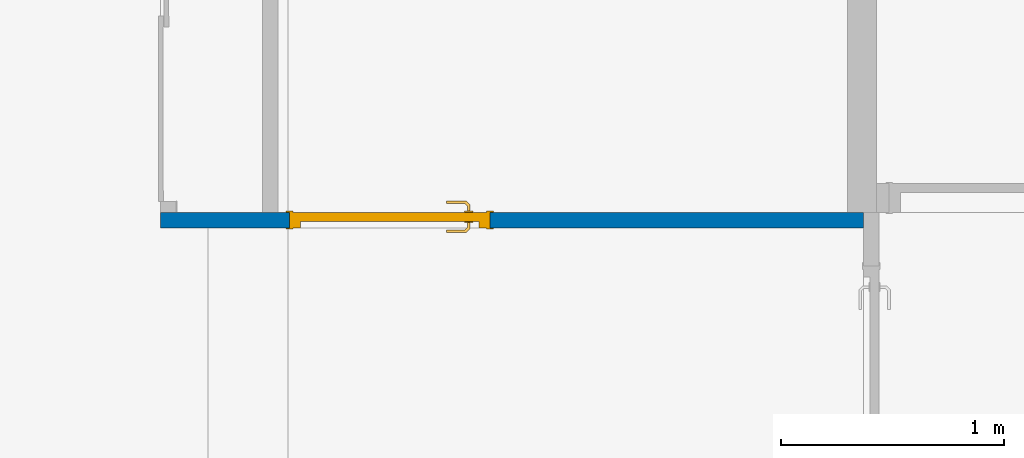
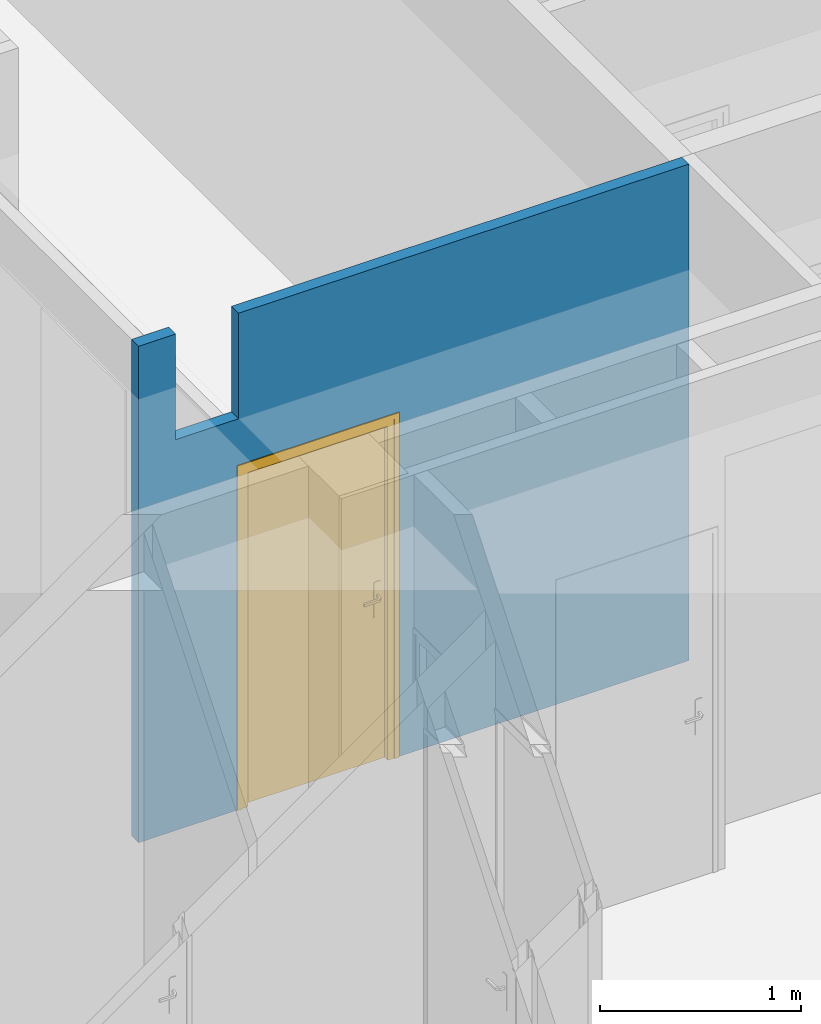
# One storey, part 61 of 97: 1 door, 1 wall, 1 opening.
"""IFC4 building model written with IfcOpenShell, lengths in metres."""

from ifc_helpers import new_model, entity, si_unit, converted_unit, derived_unit, direction, frame, origin, place, context, subcontext, project, spatial, indexed_curve, outline, extrude, polygons, source, transform, mapped, material, material_list, layer, layer_set, constituent, constituent_set, type_object, type_shapes, element, fill, save


model = new_model("IFC4")

# Units and contexts
model_context = context("Model", 3, precision=1e-05, world=origin(), true_north=direction((6.12303176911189e-17, 1.0)))
body_context = subcontext(model_context, "Body", "Model", "MODEL_VIEW")
ifc_project = project(units=[si_unit("LENGTHUNIT", "METRE"), si_unit("AREAUNIT", "SQUARE_METRE"), si_unit("VOLUMEUNIT", "CUBIC_METRE"), converted_unit("PLANEANGLEUNIT", "DEGREE", entity("IfcRatioMeasure", 0.0174532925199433), si_unit("PLANEANGLEUNIT", "RADIAN"), dimensions=[0, 0, 0, 0, 0, 0, 0]), si_unit("MASSUNIT", "GRAM", prefix="KILO"), derived_unit("MASSDENSITYUNIT", [(si_unit("MASSUNIT", "GRAM", prefix="KILO"), 1), (si_unit("LENGTHUNIT", "METRE"), -3)]), derived_unit("MOMENTOFINERTIAUNIT", [(si_unit("LENGTHUNIT", "METRE"), 4)]), si_unit("TIMEUNIT", "SECOND"), si_unit("FREQUENCYUNIT", "HERTZ"), si_unit("THERMODYNAMICTEMPERATUREUNIT", "DEGREE_CELSIUS"), derived_unit("THERMALTRANSMITTANCEUNIT", [(si_unit("MASSUNIT", "GRAM", prefix="KILO"), 1), (si_unit("THERMODYNAMICTEMPERATUREUNIT", "KELVIN"), -1), (si_unit("TIMEUNIT", "SECOND"), -3)]), derived_unit("VOLUMETRICFLOWRATEUNIT", [(si_unit("LENGTHUNIT", "METRE"), 3), (si_unit("TIMEUNIT", "SECOND"), -1)]), si_unit("ELECTRICCURRENTUNIT", "AMPERE"), si_unit("ELECTRICVOLTAGEUNIT", "VOLT"), si_unit("POWERUNIT", "WATT"), si_unit("FORCEUNIT", "NEWTON", prefix="KILO"), si_unit("ILLUMINANCEUNIT", "LUX"), si_unit("LUMINOUSFLUXUNIT", "LUMEN"), si_unit("LUMINOUSINTENSITYUNIT", "CANDELA"), derived_unit("USERDEFINED", [(si_unit("MASSUNIT", "GRAM", prefix="KILO"), -1), (si_unit("LENGTHUNIT", "METRE"), -2), (si_unit("TIMEUNIT", "SECOND"), 3), (si_unit("LUMINOUSFLUXUNIT", "LUMEN"), 1)]), derived_unit("LINEARVELOCITYUNIT", [(si_unit("LENGTHUNIT", "METRE"), 1), (si_unit("TIMEUNIT", "SECOND"), -1)]), si_unit("PRESSUREUNIT", "PASCAL"), derived_unit("USERDEFINED", [(si_unit("LENGTHUNIT", "METRE"), -2), (si_unit("MASSUNIT", "GRAM", prefix="KILO"), 1), (si_unit("TIMEUNIT", "SECOND"), -2)]), derived_unit("LINEARFORCEUNIT", [(si_unit("MASSUNIT", "GRAM", prefix="KILO"), 1), (si_unit("LENGTHUNIT", "METRE"), 1), (si_unit("TIMEUNIT", "SECOND"), -2), (si_unit("LENGTHUNIT", "METRE"), -1)]), derived_unit("PLANARFORCEUNIT", [(si_unit("MASSUNIT", "GRAM", prefix="KILO"), 1), (si_unit("LENGTHUNIT", "METRE"), 1), (si_unit("TIMEUNIT", "SECOND"), -2), (si_unit("LENGTHUNIT", "METRE"), -2)])], contexts=[model_context])

# Site, building, storey
site_placement = place(None, origin())
site = spatial("IfcSite", under=ifc_project, at=site_placement, Name="Default", CompositionType="ELEMENT")
building_placement = place(site_placement, origin())
building = spatial("IfcBuilding", under=site, at=building_placement, Name="HOTEL CONSULAIRE BOULOGNE SUR MER", CompositionType="ELEMENT")
storey_placement = place(building_placement, frame((0.0, 0.0, 3.62152697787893)))
storey = spatial("IfcBuildingStorey", under=building, at=storey_placement, Name="Niveau 1", CompositionType="ELEMENT", Elevation=3.62152697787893)

# Wall, opening, door
ifc_material_1 = material(Name="Mur par défaut", Category="Divers")
ifc_layer = layer(ifc_material_1, 0.07, Name="Mur par défaut", Category="Divers")
ifc_layer_set = layer_set([ifc_layer], Name="Mur de base:Générique - Int. 70 mm")
wall_type = type_object("IfcWallType", Name="Mur de base:Générique - Int. 70 mm", PredefinedType="NOTDEFINED", material=ifc_layer_set)
wall_placement = place(storey_placement, frame((-2.58913283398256, -22.5600276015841, 0.0), z_axis=(0.0, 0.0, 1.0), x_axis=(-1.0, 0.0, 0.0)))
wall = element("IfcWall", 1, at=wall_placement, inside=storey, type_object=wall_type, material=ifc_layer_set, Name="Mur de base:Générique - Int. 70 mm", ObjectType="Mur de base:Générique - Int. 70 mm", PredefinedType="NOTDEFINED", context=body_context, shape_type="Tessellation", body=[
    polygons([(1.46852136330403e-16, 0.0350000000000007, 3.01021454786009), (3.342632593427e-16, -0.0350000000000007, 3.01021454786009), (0.0713958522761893, -0.0350000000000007, 3.01021454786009), (2.58339585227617, -0.035000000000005, 3.01021454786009), (2.58339585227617, 0.0349999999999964, 3.01021454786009), (3.15639585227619, -0.0350000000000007, 0.0), (3.08639585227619, -0.0350000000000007, 0.0), (2.69839585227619, -0.0350000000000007, 0.0), (2.62839585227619, -0.0350000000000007, 0.0), (2.57739585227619, -0.035000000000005, 0.0), (2.57739585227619, 0.0350000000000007, 0.0), (3.15639585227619, 0.0350000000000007, 0.0), (2.57739585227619, -0.035000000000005, 2.075), (3.15639585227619, -0.0350000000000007, 3.01021454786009), (3.08639585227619, -0.0350000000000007, 3.01021454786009), (2.94339585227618, -0.035000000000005, 3.01021454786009), (2.94339585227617, -0.035000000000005, 2.37021454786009), (2.69839585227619, -0.035000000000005, 2.37021454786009), (2.62839585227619, -0.035000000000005, 2.37021454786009), (2.58339585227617, -0.035000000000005, 2.37021454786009), (3.342632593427e-16, -0.0350000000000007, 0.0), (0.0713958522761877, -0.0350000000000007, 0.0), (1.67739585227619, -0.0350000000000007, 0.0), (1.67739585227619, -0.0350000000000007, 2.075), (2.57739585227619, 0.0349999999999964, 2.075), (1.67739585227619, 0.0350000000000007, 2.075), (1.67739585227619, 0.0350000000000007, 0.0), (1.46852136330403e-16, 0.0350000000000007, 0.0), (2.58339585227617, 0.0349999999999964, 2.37021454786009), (2.94339585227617, 0.0349999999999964, 2.37021454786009), (2.94339585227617, 0.0349999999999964, 3.01021454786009), (3.15639585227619, 0.0350000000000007, 3.01021454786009)], [[[3, 4, 5, 1, 2]], [[15, 14, 32, 31, 16]], [[29, 20, 19, 18, 17, 30]], [[8, 9, 10, 11, 12, 6, 7]], [[26, 25, 13, 24]], [[22, 21, 28, 27, 23]], [[3, 2, 21, 22, 23, 24, 13, 10, 9, 8, 7, 6, 14, 15, 16, 17, 18, 19, 20, 4]], [[30, 31, 32, 12, 11, 25, 26, 27, 28, 1, 5, 29]], [[28, 21, 2, 1]], [[25, 11, 10, 13]], [[31, 30, 17, 16]], [[27, 26, 24, 23]], [[14, 6, 12, 32]], [[5, 4, 20, 29]]], closed=True),
])
opening_placement = place(wall_placement, frame((2.57739585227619, 0.0350000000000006, 0.0)))
opening = element("IfcOpeningElement", 2, at=opening_placement, cuts=wall, Name="Int. Simple:PP (0.83m x 2.04m):1", ObjectType="Opening", PredefinedType="OPENING", context=body_context, shape_type="SweptSolid", body=[
    extrude(outline(indexed_curve([(0.0, 5.41433564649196e-16), (2.075, 5.41433564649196e-16), (2.075, 0.9), (0.0, 0.9), (0.0, 5.41433564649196e-16)], self_intersect=False)), frame((0.0, 0.0, 0.0), z_axis=(0.0, -1.0, 0.0), x_axis=(0.0, 0.0, 1.0)), (0.0, 0.0, 1.0), 0.07),
])
ifc_material_2 = material(Name="Finition Peinture - Blanc satiné", Category="Peinture")
ifc_constituent_1 = constituent(ifc_material_2, Name="Finition Peinture - Blanc satiné", Category="Matériaux")
ifc_material_3 = material(Name="Bois - Panneau de porte", Category="Bois")
ifc_constituent_2 = constituent(ifc_material_3, Name="Bois - Panneau de porte", Category="Matériaux")
ifc_material_4 = material(Name="Bois - Cadre de porte", Category="Bois")
ifc_constituent_3 = constituent(ifc_material_4, Name="Bois - Cadre de porte", Category="Matériaux")
ifc_constituent_set = constituent_set(constituents=[ifc_constituent_1, ifc_constituent_2, ifc_constituent_3], Name="MaterialConstituentSet")
ifc_material_list = material_list([ifc_material_3, ifc_material_4, ifc_material_4, ifc_material_2])
door_type = type_object("IfcDoorType", Name="Int. Simple:PP (0.83m x 2.04m)", OperationType="NOTDEFINED", PredefinedType="DOOR", material=ifc_material_list)
shared_shape = source(origin(), body_context, "Body", "Tessellation", [
    polygons([(0.0750000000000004, -0.00500000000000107, 0.870000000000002), (0.0846472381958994, -0.00500000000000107, 0.866003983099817), (0.0950000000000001, -0.00500000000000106, 0.86464101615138), (0.105352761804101, -0.00500000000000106, 0.866003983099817), (0.115, -0.00500000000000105, 0.870000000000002), (0.114999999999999, -0.00500000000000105, 1.08), (0.1053527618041, -0.00500000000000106, 1.08399601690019), (0.094999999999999, -0.00500000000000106, 1.08535898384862), (0.0846472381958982, -0.00500000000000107, 1.08399601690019), (0.0749999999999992, -0.00500000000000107, 1.08), (0.0749999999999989, -1.06594733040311e-15, 0.870000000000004), (0.0749999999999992, -1.06594733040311e-15, 1.08), (0.0846472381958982, -1.06171738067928e-15, 1.08399601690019), (0.094999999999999, -1.05748743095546e-15, 1.08535898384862), (0.1053527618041, -1.05325748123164e-15, 1.08399601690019), (0.114999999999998, -1.04902753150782e-15, 1.08), (0.115, -1.04902753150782e-15, 0.870000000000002), (0.105352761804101, -1.05325748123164e-15, 0.866003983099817), (0.0950000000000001, -1.05748743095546e-15, 0.86464101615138), (0.0846472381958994, -1.06171738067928e-15, 0.866003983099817)], [[[4, 5, 6, 7, 8, 9, 10, 1, 2, 3]], [[15, 16, 17, 18, 19, 20, 11, 12, 13, 14]], [[11, 20, 2, 1]], [[2, 20, 19, 3]], [[19, 18, 4, 3]], [[18, 17, 5, 4]], [[6, 5, 17, 16]], [[16, 15, 7, 6]], [[7, 15, 14, 8]], [[14, 13, 9, 8]], [[13, 12, 10, 9]], [[1, 10, 12, 11]]], closed=True),
    polygons([(0.114999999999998, 0.0399999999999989, 1.08), (0.105352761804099, 0.0399999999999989, 1.08399601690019), (0.0949999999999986, 0.0399999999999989, 1.08535898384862), (0.084647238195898, 0.0399999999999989, 1.08399601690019), (0.0749999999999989, 0.0399999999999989, 1.08), (0.0750000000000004, 0.0399999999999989, 0.870000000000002), (0.0846472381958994, 0.0399999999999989, 0.866003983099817), (0.0950000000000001, 0.0399999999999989, 0.86464101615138), (0.105352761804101, 0.0399999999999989, 0.866003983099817), (0.115, 0.0399999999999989, 0.870000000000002), (0.114999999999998, 0.0449999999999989, 1.08), (0.115, 0.0449999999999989, 0.870000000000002), (0.105352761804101, 0.0449999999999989, 0.866003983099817), (0.0950000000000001, 0.0449999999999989, 0.86464101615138), (0.0846472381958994, 0.0449999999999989, 0.866003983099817), (0.0749999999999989, 0.0449999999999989, 0.870000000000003), (0.0749999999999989, 0.0449999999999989, 1.08), (0.084647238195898, 0.0449999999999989, 1.08399601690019), (0.0949999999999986, 0.0449999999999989, 1.08535898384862), (0.105352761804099, 0.0449999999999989, 1.08399601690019)], [[[9, 10, 1, 2, 3, 4, 5, 6, 7, 8]], [[20, 11, 12, 13, 14, 15, 16, 17, 18, 19]], [[11, 20, 2, 1]], [[2, 20, 19, 3]], [[19, 18, 4, 3]], [[18, 17, 5, 4]], [[6, 5, 17, 16]], [[16, 15, 7, 6]], [[7, 15, 14, 8]], [[14, 13, 9, 8]], [[13, 12, 10, 9]], [[1, 10, 12, 11]]], closed=True),
    polygons([(0.0889999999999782, -0.00500000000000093, 1.007), (0.0929747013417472, -0.00500000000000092, 1.00778044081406), (0.0970252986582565, -0.0050000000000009, 1.00778044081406), (0.101000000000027, -0.00500000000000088, 1.00699999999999), (0.101000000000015, -0.00500000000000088, 0.993000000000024), (0.0970252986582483, -0.0050000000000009, 0.992219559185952), (0.0929747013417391, -0.00500000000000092, 0.99221955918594), (0.0889999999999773, -0.00500000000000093, 0.992999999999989), (0.0889999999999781, -0.0326509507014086, 1.007), (0.092974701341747, -0.0310045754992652, 1.00778044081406), (0.0970252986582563, -0.0293267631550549, 1.00778044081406), (0.101000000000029, -0.0276803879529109, 1.007), (0.101000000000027, -0.0276803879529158, 0.993000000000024), (0.0970252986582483, -0.0293267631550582, 0.992219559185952), (0.0929747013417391, -0.0310045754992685, 0.99221955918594), (0.0889999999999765, -0.0326509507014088, 0.992999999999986), (0.107377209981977, -0.0510281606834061, 1.007), (0.10902358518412, -0.0470534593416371, 1.00778044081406), (0.110701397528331, -0.0430028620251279, 1.00778044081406), (0.112347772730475, -0.0390281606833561, 1.007), (0.112347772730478, -0.0390281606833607, 0.993000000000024), (0.110701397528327, -0.0430028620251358, 0.992219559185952), (0.109023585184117, -0.0470534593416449, 0.99221955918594), (0.107377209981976, -0.0510281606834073, 0.992999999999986), (0.195018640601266, -0.0510281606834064, 1.00699999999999), (0.195018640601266, -0.0510281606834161, 0.992999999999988), (0.195018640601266, -0.0470534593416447, 0.99221955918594), (0.195018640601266, -0.0430028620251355, 0.992219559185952), (0.195018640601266, -0.039028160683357, 0.993000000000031), (0.195018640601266, -0.0390281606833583, 1.007), (0.195018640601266, -0.0430028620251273, 1.00778044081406), (0.195018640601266, -0.0470534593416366, 1.00778044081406), (0.147307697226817, -0.0510281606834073, 1.007), (0.152860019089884, -0.045028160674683, 1.0078786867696), (0.15368320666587, -0.039028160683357, 1.007), (0.147307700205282, -0.0510281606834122, 0.992999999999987), (0.152860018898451, -0.0450281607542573, 0.992121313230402), (0.153683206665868, -0.039028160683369, 0.993000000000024)], [[[2, 3, 4, 5, 6, 7, 8, 1]], [[21, 20, 35, 30, 29, 38]], [[9, 10, 2, 1]], [[10, 18, 19, 11, 3, 2]], [[11, 12, 4, 3]], [[5, 4, 12, 13]], [[26, 27, 28, 29, 30, 31, 32, 25]], [[13, 14, 6, 5]], [[14, 22, 23, 15, 7, 6]], [[15, 16, 8, 7]], [[1, 8, 16, 9]], [[17, 18, 10, 9]], [[19, 20, 12, 11]], [[13, 12, 20, 21]], [[21, 22, 14, 13]], [[23, 24, 16, 15]], [[9, 16, 24, 17]], [[33, 32, 34]], [[25, 32, 33]], [[18, 17, 33]], [[34, 35, 19]], [[20, 19, 35]], [[35, 31, 30]], [[32, 31, 34]], [[31, 35, 34]], [[18, 33, 34]], [[18, 34, 19]], [[38, 28, 37]], [[36, 37, 27]], [[21, 38, 22]], [[38, 29, 28]], [[26, 36, 27]], [[24, 23, 36]], [[36, 23, 37]], [[23, 22, 37]], [[22, 38, 37]], [[27, 37, 28]], [[17, 24, 36, 26, 25, 33]]], closed=True),
    polygons([(0.10100000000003, 0.0449999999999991, 0.993000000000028), (0.101000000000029, 0.0449999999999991, 1.007), (0.0970252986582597, 0.0449999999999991, 1.00778044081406), (0.0929747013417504, 0.0449999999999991, 1.00778044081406), (0.0889999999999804, 0.044999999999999, 1.007), (0.0889999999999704, 0.044999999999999, 0.992999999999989), (0.0929747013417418, 0.0449999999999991, 0.99221955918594), (0.0970252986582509, 0.0449999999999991, 0.992219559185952), (0.10100000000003, 0.067485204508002, 0.993000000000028), (0.10100000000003, 0.0674852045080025, 1.007), (0.0970252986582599, 0.0691315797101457, 1.00778044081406), (0.0929747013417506, 0.070809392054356, 1.00778044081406), (0.0889999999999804, 0.0724557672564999, 1.007), (0.0889999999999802, 0.072455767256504, 0.992999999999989), (0.0929747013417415, 0.0708093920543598, 0.99221955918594), (0.0970252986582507, 0.0691315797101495, 0.992219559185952), (0.112485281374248, 0.0789704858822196, 0.993000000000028), (0.112485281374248, 0.0789704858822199, 1.007), (0.110838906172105, 0.0829451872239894, 1.00778044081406), (0.109161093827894, 0.0869957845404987, 1.00778044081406), (0.107514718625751, 0.0909704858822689, 1.007), (0.107514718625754, 0.090970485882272, 0.992999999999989), (0.109161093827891, 0.0869957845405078, 0.99221955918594), (0.110838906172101, 0.0829451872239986, 0.992219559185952), (0.195045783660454, 0.0789704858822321, 0.993000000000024), (0.195045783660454, 0.0829451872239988, 0.992219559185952), (0.195045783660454, 0.086995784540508, 0.99221955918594), (0.195045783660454, 0.0909704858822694, 0.992999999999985), (0.195045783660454, 0.0909704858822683, 1.007), (0.195045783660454, 0.0869957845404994, 1.00778044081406), (0.195045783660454, 0.0829451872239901, 1.00778044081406), (0.195045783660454, 0.0789704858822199, 1.007), (0.147445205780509, 0.0909704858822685, 1.007), (0.152942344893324, 0.0849704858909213, 1.0078786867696), (0.153765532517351, 0.0789704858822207, 1.007), (0.147445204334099, 0.0909704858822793, 0.992999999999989), (0.152942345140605, 0.0849704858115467, 0.992121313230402), (0.153765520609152, 0.0789704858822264, 0.993000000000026)], [[[4, 5, 6, 7, 8, 1, 2, 3]], [[18, 17, 38, 25, 32, 35]], [[2, 1, 9, 10]], [[25, 26, 27, 28, 29, 30, 31, 32]], [[10, 11, 3, 2]], [[11, 19, 20, 12, 4, 3]], [[12, 13, 5, 4]], [[6, 5, 13, 14]], [[14, 15, 7, 6]], [[15, 23, 24, 16, 8, 7]], [[16, 9, 1, 8]], [[10, 9, 17, 18]], [[18, 19, 11, 10]], [[20, 21, 13, 12]], [[14, 13, 21, 22]], [[22, 23, 15, 14]], [[24, 17, 9, 16]], [[35, 31, 34]], [[33, 34, 30]], [[18, 35, 19]], [[35, 32, 31]], [[29, 33, 30]], [[21, 20, 33]], [[33, 20, 34]], [[20, 19, 34]], [[19, 35, 34]], [[30, 34, 31]], [[21, 33, 29, 28, 36, 22]], [[36, 27, 37]], [[28, 27, 36]], [[23, 22, 36]], [[37, 38, 24]], [[17, 24, 38]], [[38, 26, 25]], [[27, 26, 37]], [[26, 38, 37]], [[23, 36, 37]], [[23, 37, 24]]], closed=True),
    polygons([(0.034999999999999, 0.04, 2.04), (0.865, 0.04, 2.04), (0.864999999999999, 0.04, 0.0), (0.034999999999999, 0.04, 0.0), (0.034999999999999, 3.38395977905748e-17, 2.04), (0.034999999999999, 3.38395977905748e-17, 0.0), (0.864999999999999, 3.38395977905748e-17, 0.0), (0.865, 3.38395977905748e-17, 2.04)], [[[4, 1, 2, 3]], [[7, 8, 5, 6]], [[2, 1, 5, 8]], [[3, 2, 8, 7]], [[4, 3, 7, 6]], [[1, 4, 6, 5]]], closed=True),
    polygons([(-1.52954982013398e-14, 4.22994972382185e-18, 0.0), (-1.52954982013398e-14, 0.0699999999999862, 0.0), (0.0500000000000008, 0.0699999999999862, 0.0), (0.0500000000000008, 0.04, 0.0), (0.0349999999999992, 0.04, 0.0), (0.0349999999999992, 4.22994972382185e-18, 0.0), (-1.51601398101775e-14, 4.22994972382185e-18, 2.07500000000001), (-1.51601398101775e-14, 0.0699999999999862, 2.07500000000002), (0.900000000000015, 0.0699999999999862, 2.07500000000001), (0.900000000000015, 0.0699999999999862, 5.8808818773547e-24), (0.849999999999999, 0.0699999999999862, -4.86028664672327e-26), (0.849999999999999, 0.0699999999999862, 2.025), (0.0500000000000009, 0.0699999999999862, 2.025), (0.0500000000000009, 0.04, 2.025), (0.849999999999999, 0.04, 2.025), (0.849999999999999, 0.04, 1.99209647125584e-25), (0.865000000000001, 0.04, 1.51399295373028e-24), (0.865000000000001, 0.04, 2.04), (0.0349999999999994, 0.04, 2.04), (0.0349999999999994, 4.22994972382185e-18, 2.04), (0.865000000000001, 4.22994972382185e-18, 2.04), (0.865000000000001, 4.22994972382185e-18, -1.26556696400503e-24), (0.900000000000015, 4.22994972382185e-18, -3.95490676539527e-25), (0.900000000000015, 4.22994972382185e-18, 2.07500000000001)], [[[5, 6, 1, 2, 3, 4]], [[16, 11, 10, 23, 22, 17]], [[14, 13, 12, 15]], [[20, 19, 18, 21]], [[2, 1, 7, 8]], [[15, 12, 11, 16]], [[21, 18, 17, 22]], [[3, 2, 8, 9, 10, 11, 12, 13]], [[4, 3, 13, 14]], [[6, 5, 19, 20]], [[9, 24, 23, 10]], [[16, 17, 18, 19, 5, 4, 14, 15]], [[22, 23, 24, 7, 1, 6, 20, 21]], [[8, 7, 24, 9]]], closed=True),
    polygons([(0.0149999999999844, 0.0699999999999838, 1.35358391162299e-16), (-0.0150000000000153, 0.0699999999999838, 1.35358391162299e-16), (-0.0150000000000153, 0.0749999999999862, 1.35358391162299e-16), (0.0149999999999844, 0.0749999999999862, 1.35358391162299e-16), (0.0149999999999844, 0.0699999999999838, 2.06000000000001), (0.88499999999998, 0.0699999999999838, 2.06000000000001), (0.88499999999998, 0.0699999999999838, 4.03399441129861e-24), (0.91499999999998, 0.0699999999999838, -4.03399441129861e-24), (0.91499999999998, 0.0699999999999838, 2.09000000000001), (-0.0150000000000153, 0.0699999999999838, 2.09000000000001), (-0.0150000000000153, 0.0749999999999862, 2.09000000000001), (0.91499999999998, 0.0749999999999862, 2.09000000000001), (0.91499999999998, 0.0749999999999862, -4.03399441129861e-24), (0.88499999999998, 0.0749999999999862, 0.0), (0.88499999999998, 0.0749999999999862, 2.06000000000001), (0.0149999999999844, 0.0749999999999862, 2.06000000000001)], [[[2, 3, 4, 1]], [[14, 13, 8, 7]], [[5, 16, 15, 6]], [[7, 8, 9, 10, 2, 1, 5, 6]], [[3, 2, 10, 11]], [[6, 15, 14, 7]], [[4, 3, 11, 12, 13, 14, 15, 16]], [[1, 4, 16, 5]], [[12, 9, 8, 13]], [[11, 10, 9, 12]]], closed=True),
    polygons([(0.0149999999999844, -0.00499999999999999, 1.35358391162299e-16), (-0.0150000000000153, -0.00499999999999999, 1.35358391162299e-16), (-0.0150000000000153, -8.2484019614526e-16, 1.35358391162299e-16), (0.0149999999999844, -8.2484019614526e-16, 1.35358391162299e-16), (0.88499999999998, -0.00499999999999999, -1.35358391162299e-16), (0.88499999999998, -8.2484019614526e-16, -1.35358391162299e-16), (0.91499999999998, -8.2484019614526e-16, -1.35358391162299e-16), (0.91499999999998, -0.00499999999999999, -1.35358391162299e-16), (0.0149999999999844, -0.00499999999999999, 2.06000000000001), (0.88499999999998, -0.00499999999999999, 2.06000000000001), (0.91499999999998, -0.00499999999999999, 2.09000000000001), (-0.0150000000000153, -0.00499999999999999, 2.09000000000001), (-0.0150000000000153, -8.2484019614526e-16, 2.09000000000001), (0.91499999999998, -8.2484019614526e-16, 2.09000000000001), (0.88499999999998, -8.2484019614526e-16, 2.06000000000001), (0.0149999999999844, -8.2484019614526e-16, 2.06000000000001)], [[[2, 3, 4, 1]], [[6, 7, 8, 5]], [[9, 16, 15, 10]], [[5, 8, 11, 12, 2, 1, 9, 10]], [[3, 2, 12, 13]], [[10, 15, 6, 5]], [[4, 3, 13, 14, 7, 6, 15, 16]], [[1, 4, 16, 9]], [[14, 11, 8, 7]], [[13, 12, 11, 14]]], closed=True),
])
type_shapes(door_type, [shared_shape])
door_placement = place(opening_placement, frame((-0.9, -0.0700000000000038, 0.0)))
door = element("IfcDoor", 3, at=door_placement, inside=storey, type_object=door_type, material=ifc_constituent_set, Name="Int. Simple:PP (0.83m x 2.04m)", ObjectType="Int. Simple:PP (0.83m x 2.04m)", OperationType="NOTDEFINED", OverallHeight=2.075, OverallWidth=0.9, PredefinedType="DOOR", context=body_context, shape_type="MappedRepresentation", body=[
    mapped(shared_shape, transform((0.0, 0.0, 0.0), scale=1.0)),
])
fill(opening, door)

save(model, "model.ifc")
